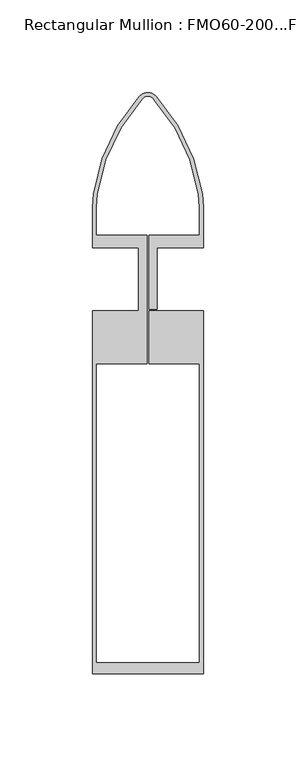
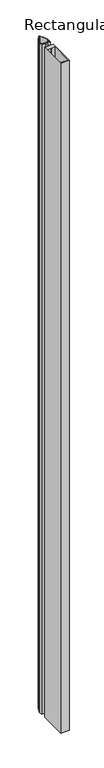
"""IFC4 building model written with IfcOpenShell, lengths in millimetres: member geometry, Rectangular Mullion : FMO60-200...FM60-80."""

from ifc_helpers import new_model, si_unit, frame, origin, place, context, project, spatial, polyline, circle_curve, source, transform, mapped, element, save
from ifc_brep_helpers import plane_surface, cylinder_surface, revolved_surface, advanced_brep


def rectangular_mullion_fmo60_200_fm60_80_63721d11(model_context):
    return source(origin(), model_context, "Body", "AdvancedBrep", [
        advanced_brep(
        [(-29.4612692, 46.2333488, 0.0), (-30.0, 38.9133183, 0.0), (-30.0, 17.0, 0.0), (-5.0, 17.0, 0.0), (-5.0, -17.0, 0.0), (-30.0, -17.0, 0.0), (-30.0, -213.009342, 0.0), (30.0, -213.009342, 0.0), (30.0, -17.0, 0.0), (0.5, -17.0, 0.0), (0.5, -45.5034642, 0.0), (28.0, -45.5034642, 0.0), (28.0, -207.009342, 0.0), (-28.0, -207.009342, 0.0), (-28.0, -45.5034642, 0.0), (-0.5, -45.5034642, 0.0), (-0.5, 23.8476589, 0.0), (-28.0, 23.8476589, 0.0), (-28.0, 38.9133183, 0.0), (-27.4828185, 45.9405476, 0.0), (-3.1488975, 97.4169663, 0.0), (0.0, 98.9502996, 0.0), (3.1488975, 97.4169663, 0.0), (27.4828185, 45.9405476, 0.0), (28.0, 38.9133183, 0.0), (28.0000412, 23.8476589, 0.0), (0.5, 23.8476589, 0.0), (0.5, -16.2, 0.0), (5.0, -16.2, 0.0), (5.0, 17.0, 0.0), (30.0, 17.0, 0.0), (30.0, 38.9133183, 0.0), (29.4612692, 46.2333488, 0.0), (4.7233463, 98.6502996, 0.0), (0.0, 100.9502996, 0.0), (-4.7233463, 98.6502996, 0.0), (-29.4612692, 46.2333488, -5000.0), (-4.7233463, 98.6502996, -5000.0), (0.0, 100.9502996, -5000.0), (4.7233463, 98.6502996, -5000.0), (29.4612692, 46.2333488, -5000.0), (30.0, 38.9133183, -5000.0), (30.0, 17.0, -5000.0), (5.0, 17.0, -5000.0), (5.0, -16.2, -5000.0), (0.5, -16.2, -5000.0), (0.5, 23.8476589, -5000.0), (28.0000412, 23.8476589, -5000.0), (28.0000412, 38.9133183, -5000.0), (27.4828185, 45.9405476, -5000.0), (3.1488975, 97.4169663, -5000.0), (0.0, 98.9502996, -5000.0), (-3.1488975, 97.4169663, -5000.0), (-27.4828185, 45.9405476, -5000.0), (-28.0, 38.9133183, -5000.0), (-28.0, 23.8476589, -5000.0), (-0.5, 23.8476589, -5000.0), (-0.5, -45.5034642, -5000.0), (-28.0, -45.5034642, -5000.0), (-28.0, -207.009342, -5000.0), (28.0, -207.009342, -5000.0), (28.0, -45.5034642, -5000.0), (0.5, -45.5034642, -5000.0), (0.5, -17.0, -5000.0), (30.0, -17.0, -5000.0), (30.0, -213.009342, -5000.0), (-30.0, -213.009342, -5000.0), (-30.0, -17.0, -5000.0), (-5.0, -17.0, -5000.0), (-5.0, 17.0, -5000.0), (-30.0, 17.0, -5000.0), (-30.0, 38.9133183, -5000.0)],
        [
            (0, 1, circle_curve(frame((20.0, 38.9133183, 0.0), z_axis=(0.0, 0.0, 1.0), x_axis=(-1.0, 0.0, 0.0)), 50.0)),
            (1, 2),
            (2, 3),
            (3, 4),
            (4, 5),
            (5, 6),
            (6, 7),
            (7, 8),
            (8, 9),
            (9, 10),
            (10, 11),
            (11, 12),
            (12, 13),
            (13, 14),
            (14, 15),
            (15, 16),
            (16, 17),
            (17, 18),
            (18, 19, circle_curve(frame((20.0, 38.9133183, 0.0), z_axis=(0.0, 0.0, -1.0), x_axis=(-0.9892253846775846, 0.14640060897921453, 0.0)), 48.0)),
            (19, 20, circle_curve(frame((69.5179996, 31.5761151, 0.0), z_axis=(0.0, 0.0, -1.0), x_axis=(-0.7410555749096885, 0.6714436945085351, 0.0)), 98.0586336)),
            (20, 21, circle_curve(frame((0.0, 94.9502996, 0.0), z_axis=(0.0, 0.0, -1.0), x_axis=(3.440159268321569e-11, 1.0, 0.0)), 4.0)),
            (21, 22, circle_curve(frame((0.0, 94.9502996, 0.0), z_axis=(0.0, 0.0, -1.0), x_axis=(0.7872243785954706, 0.61666666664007, 0.0)), 4.0)),
            (22, 23, circle_curve(frame((-69.5179996, 31.5761151, 0.0), z_axis=(0.0, 0.0, -1.0), x_axis=(0.9892124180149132, 0.14648819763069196, 0.0)), 98.0586336)),
            (23, 24, circle_curve(frame((-20.0, 38.9133183, 0.0), z_axis=(0.0, 0.0, -1.0), x_axis=(1.0, 0.0, 0.0)), 48.0)),
            (24, 25),
            (25, 26),
            (26, 27),
            (27, 28),
            (28, 29),
            (29, 30),
            (30, 31),
            (31, 32, circle_curve(frame((-20.0, 38.9133183, 0.0), z_axis=(0.0, 0.0, 1.0), x_axis=(0.9892253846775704, 0.1464006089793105, 0.0)), 50.0)),
            (32, 33, circle_curve(frame((-69.4612692, 31.5932879, 0.0), z_axis=(0.0, 0.0, 1.0), x_axis=(0.741846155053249, 0.6705701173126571, 0.0)), 100.0)),
            (33, 34, circle_curve(frame((0.0, 94.9502996, 0.0), z_axis=(0.0, 0.0, 1.0), x_axis=(2.2880808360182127e-11, 1.0, 0.0)), 6.0)),
            (34, 35, circle_curve(frame((0.0, 94.9502996, 0.0), z_axis=(0.0, 0.0, 1.0), x_axis=(-0.7872243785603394, 0.6166666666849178, 0.0)), 6.0)),
            (35, 0, circle_curve(frame((69.4612692, 31.5932879, 0.0), z_axis=(0.0, 0.0, 1.0), x_axis=(-0.9892253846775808, 0.14640060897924, 0.0)), 100.0)),
            (36, 37, circle_curve(frame((69.4612692, 31.5932879, -5000.0), z_axis=(0.0, 0.0, -1.0), x_axis=(-0.9892253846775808, 0.14640060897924, 0.0)), 100.0)),
            (37, 38, circle_curve(frame((0.0, 94.9502996, -5000.0), z_axis=(0.0, 0.0, -1.0), x_axis=(-0.7872243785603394, 0.6166666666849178, 0.0)), 6.0)),
            (38, 39, circle_curve(frame((0.0, 94.9502996, -5000.0), z_axis=(0.0, 0.0, -1.0), x_axis=(2.2880808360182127e-11, 1.0, 0.0)), 6.0)),
            (39, 40, circle_curve(frame((-69.4612692, 31.5932879, -5000.0), z_axis=(0.0, 0.0, -1.0), x_axis=(0.741846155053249, 0.6705701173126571, 0.0)), 100.0)),
            (40, 41, circle_curve(frame((-20.0, 38.9133183, -5000.0), z_axis=(0.0, 0.0, -1.0), x_axis=(0.9892253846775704, 0.1464006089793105, 0.0)), 50.0)),
            (41, 42),
            (42, 43),
            (43, 44),
            (44, 45),
            (45, 46),
            (46, 47),
            (47, 48),
            (48, 49, circle_curve(frame((-20.0, 38.9133183, -5000.0), z_axis=(0.0, 0.0, 1.0), x_axis=(1.0, 0.0, 0.0)), 48.0)),
            (49, 50, circle_curve(frame((-69.5179996, 31.5761151, -5000.0), z_axis=(0.0, 0.0, 1.0), x_axis=(0.9892124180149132, 0.14648819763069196, 0.0)), 98.0586336)),
            (50, 51, circle_curve(frame((0.0, 94.9502996, -5000.0), z_axis=(0.0, 0.0, 1.0), x_axis=(0.7872243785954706, 0.61666666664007, 0.0)), 4.0)),
            (51, 52, circle_curve(frame((0.0, 94.9502996, -5000.0), z_axis=(0.0, 0.0, 1.0), x_axis=(3.440159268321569e-11, 1.0, 0.0)), 4.0)),
            (52, 53, circle_curve(frame((69.5179996, 31.5761151, -5000.0), z_axis=(0.0, 0.0, 1.0), x_axis=(-0.7410555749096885, 0.6714436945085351, 0.0)), 98.0586336)),
            (53, 54, circle_curve(frame((20.0, 38.9133183, -5000.0), z_axis=(0.0, 0.0, 1.0), x_axis=(-0.9892253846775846, 0.14640060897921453, 0.0)), 48.0)),
            (54, 55),
            (55, 56),
            (56, 57),
            (57, 58),
            (58, 59),
            (59, 60),
            (60, 61),
            (61, 62),
            (62, 63),
            (63, 64),
            (64, 65),
            (65, 66),
            (66, 67),
            (67, 68),
            (68, 69),
            (69, 70),
            (70, 71),
            (71, 36, circle_curve(frame((20.0, 38.9133183, -5000.0), z_axis=(0.0, 0.0, -1.0), x_axis=(-1.0, 0.0, 0.0)), 50.0)),
            (0, 36),
            (71, 1),
            (70, 2),
            (69, 3),
            (68, 4),
            (67, 5),
            (66, 6),
            (65, 7),
            (64, 8),
            (63, 9),
            (62, 10),
            (61, 11),
            (60, 12),
            (59, 13),
            (58, 14),
            (57, 15),
            (56, 16),
            (55, 17),
            (54, 18),
            (53, 19),
            (52, 20),
            (51, 21),
            (50, 22),
            (49, 23),
            (48, 24),
            (47, 25),
            (46, 26),
            (45, 27),
            (44, 28),
            (43, 29),
            (42, 30),
            (41, 31),
            (40, 32),
            (39, 33),
            (38, 34),
            (37, 35),
        ],
        [
            plane_surface(frame((0.0, -215.111552, 0.0), z_axis=(0.0, 0.0, 1.0), x_axis=(-1.0, 0.0, 0.0))),
            plane_surface(frame((0.0, -215.111552, -5000.0), z_axis=(0.0, 0.0, -1.0), x_axis=(-1.0, 0.0, 0.0))),
            cylinder_surface(frame((20.0, 38.9133183, 0.0), z_axis=(0.0, 0.0, 1.0), x_axis=(-1.0, 0.0, 0.0)), 50.0),
            plane_surface(frame((-30.0, 38.9133183, 0.0), z_axis=(-1.0, 0.0, 0.0), x_axis=(0.0, 0.0, -1.0))),
            plane_surface(frame((-30.0, 17.0, 0.0), z_axis=(0.0, -1.0, 0.0), x_axis=(0.0, 0.0, -1.0))),
            plane_surface(frame((-5.0, 17.0, 0.0), z_axis=(-1.0, 0.0, 0.0), x_axis=(0.0, 0.0, -1.0))),
            plane_surface(frame((-5.0, -17.0, 0.0), z_axis=(0.0, 1.0, 0.0), x_axis=(0.0, 0.0, -1.0))),
            plane_surface(frame((-30.0, -17.0, 0.0), z_axis=(-1.0, 0.0, 0.0), x_axis=(0.0, 0.0, -1.0))),
            plane_surface(frame((-30.0, -213.009342, 0.0), z_axis=(0.0, -1.0, 0.0), x_axis=(0.0, 0.0, -1.0))),
            plane_surface(frame((30.0, -213.009342, 0.0), z_axis=(1.0, 0.0, 0.0), x_axis=(0.0, 0.0, -1.0))),
            plane_surface(frame((30.0, -17.0, 0.0), z_axis=(0.0, 1.0, 0.0), x_axis=(0.0, 0.0, -1.0))),
            plane_surface(frame((0.5, -17.0, 0.0), z_axis=(-1.0, 0.0, 0.0), x_axis=(0.0, 0.0, -1.0))),
            plane_surface(frame((0.5, -45.5034642, 0.0), z_axis=(0.0, -1.0, 0.0), x_axis=(0.0, 0.0, -1.0))),
            plane_surface(frame((28.0, -45.5034642, 0.0), z_axis=(-1.0, 0.0, 0.0), x_axis=(0.0, 0.0, -1.0))),
            plane_surface(frame((28.0, -207.009342, 0.0), z_axis=(0.0, 1.0, 0.0), x_axis=(0.0, 0.0, -1.0))),
            plane_surface(frame((-28.0, -207.009342, 0.0), z_axis=(1.0, 0.0, 0.0), x_axis=(0.0, 0.0, -1.0))),
            plane_surface(frame((-28.0, -45.5034642, 0.0), z_axis=(0.0, -1.0, 0.0), x_axis=(0.0, 0.0, -1.0))),
            plane_surface(frame((-0.5, -45.5034642, 0.0), z_axis=(1.0, 0.0, 0.0), x_axis=(0.0, 0.0, -1.0))),
            plane_surface(frame((-0.5, 23.8476589, 0.0), z_axis=(0.0, 1.0, 0.0), x_axis=(0.0, 0.0, -1.0))),
            plane_surface(frame((-28.0, 23.8476589, 0.0), z_axis=(1.0, 0.0, 0.0), x_axis=(0.0, 0.0, -1.0))),
            revolved_surface(polyline([(-27.48281846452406, 45.940547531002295, -5000.0), (-27.48281846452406, 45.940547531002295, 0.0)]), (20.0, 38.9133183, 0.0), (0.0, 0.0, -1.0)),
            revolved_surface(polyline([(-3.148897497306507, 97.41696632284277, -5000.0), (-3.148897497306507, 97.41696632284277, 0.0)]), (69.5179996, 31.5761151, 0.0), (0.0, 0.0, -1.0)),
            revolved_surface(polyline([(1.3760637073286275e-10, 98.9502996, -5000.0), (1.3760637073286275e-10, 98.9502996, 0.0)]), (0.0, 94.9502996, 0.0), (0.0, 0.0, -1.0)),
            revolved_surface(polyline([(3.1488975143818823, 97.41696626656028, -5000.0), (3.1488975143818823, 97.41696626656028, 0.0)]), (0.0, 94.9502996, 0.0), (0.0, 0.0, -1.0)),
            revolved_surface(polyline([(27.48281845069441, 45.94054759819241, -5000.0), (27.48281845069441, 45.94054759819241, 0.0)]), (-69.5179996, 31.5761151, 0.0), (0.0, 0.0, -1.0)),
            revolved_surface(polyline([(28.0, 38.9133183, -5000.0), (28.0, 38.9133183, 0.0)]), (-20.0, 38.9133183, 0.0), (0.0, 0.0, -1.0)),
            plane_surface(frame((28.0000412, 38.9133183, 0.0), z_axis=(-1.0, 0.0, 0.0), x_axis=(0.0, 0.0, -1.0))),
            plane_surface(frame((28.0000412, 23.8476589, 0.0), z_axis=(0.0, 1.0, 0.0), x_axis=(0.0, 0.0, -1.0))),
            plane_surface(frame((0.5, 23.8476589, 0.0), z_axis=(-1.0, 0.0, 0.0), x_axis=(0.0, 0.0, -1.0))),
            plane_surface(frame((0.5, -16.2, 0.0), z_axis=(0.0, -1.0, 0.0), x_axis=(0.0, 0.0, -1.0))),
            plane_surface(frame((5.0, -16.2, 0.0), z_axis=(1.0, 0.0, 0.0), x_axis=(0.0, 0.0, -1.0))),
            plane_surface(frame((5.0, 17.0, 0.0), z_axis=(0.0, -1.0, 0.0), x_axis=(0.0, 0.0, -1.0))),
            plane_surface(frame((30.0, 17.0, 0.0), z_axis=(1.0, 0.0, 0.0), x_axis=(0.0, 0.0, -1.0))),
            cylinder_surface(frame((-20.0, 38.9133183, 0.0), z_axis=(0.0, 0.0, 1.0), x_axis=(0.9892253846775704, 0.1464006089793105, 0.0)), 50.0),
            cylinder_surface(frame((-69.4612692, 31.5932879, 0.0), z_axis=(0.0, 0.0, 1.0), x_axis=(0.741846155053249, 0.6705701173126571, 0.0)), 100.0),
            cylinder_surface(frame((0.0, 94.9502996, 0.0), z_axis=(0.0, 0.0, 1.0), x_axis=(2.2880808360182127e-11, 1.0, 0.0)), 6.0),
            cylinder_surface(frame((0.0, 94.9502996, 0.0), z_axis=(0.0, 0.0, 1.0), x_axis=(-0.7872243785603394, 0.6166666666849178, 0.0)), 6.0),
            cylinder_surface(frame((69.4612692, 31.5932879, 0.0), z_axis=(0.0, 0.0, 1.0), x_axis=(-0.9892253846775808, 0.14640060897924, 0.0)), 100.0),
        ],
        [
            (0, [[1, 2, 3, 4, 5, 6, 7, 8, 9, 10, 11, 12, 13, 14, 15, 16, 17, 18, 19, 20, 21, 22, 23, 24, 25, 26, 27, 28, 29, 30, 31, 32, 33, 34, 35, 36]]),
            (1, [[37, 38, 39, 40, 41, 42, 43, 44, 45, 46, 47, 48, 49, 50, 51, 52, 53, 54, 55, 56, 57, 58, 59, 60, 61, 62, 63, 64, 65, 66, 67, 68, 69, 70, 71, 72]]),
            (2, [[-1, 73, -72, 74]]),
            (3, [[-2, -74, -71, 75]]),
            (4, [[-3, -75, -70, 76]]),
            (5, [[-4, -76, -69, 77]]),
            (6, [[-5, -77, -68, 78]]),
            (7, [[-6, -78, -67, 79]]),
            (8, [[-7, -79, -66, 80]]),
            (9, [[-8, -80, -65, 81]]),
            (10, [[-9, -81, -64, 82]]),
            (11, [[-10, -82, -63, 83]]),
            (12, [[-11, -83, -62, 84]]),
            (13, [[-12, -84, -61, 85]]),
            (14, [[-13, -85, -60, 86]]),
            (15, [[-14, -86, -59, 87]]),
            (16, [[-15, -87, -58, 88]]),
            (17, [[-16, -88, -57, 89]]),
            (18, [[-17, -89, -56, 90]]),
            (19, [[-18, -90, -55, 91]]),
            (20, [[-19, -91, -54, 92]]),
            (21, [[-20, -92, -53, 93]]),
            (22, [[-21, -93, -52, 94]]),
            (23, [[-22, -94, -51, 95]]),
            (24, [[-23, -95, -50, 96]]),
            (25, [[-24, -96, -49, 97]]),
            (26, [[-25, -97, -48, 98]]),
            (27, [[-26, -98, -47, 99]]),
            (28, [[-27, -99, -46, 100]]),
            (29, [[-28, -100, -45, 101]]),
            (30, [[-29, -101, -44, 102]]),
            (31, [[-30, -102, -43, 103]]),
            (32, [[-31, -103, -42, 104]]),
            (33, [[-32, -104, -41, 105]]),
            (34, [[-33, -105, -40, 106]]),
            (35, [[-34, -106, -39, 107]]),
            (36, [[-35, -107, -38, 108]]),
            (37, [[-36, -108, -37, -73]]),
        ],
    ),
    ])


if __name__ == "__main__":
    model = new_model("IFC4")
    model_context = context("Model", 3, world=origin())
    ifc_project = project(units=[si_unit("LENGTHUNIT", "METRE", prefix="MILLI")], contexts=[model_context])
    site = spatial("IfcSite", under=ifc_project)
    building = spatial("IfcBuilding", under=site)
    placement = place(None, origin())
    rectangular_mullion_fmo60_200_fm60_80_shape = rectangular_mullion_fmo60_200_fm60_80_63721d11(model_context)
    element("IfcMember", 1, ObjectType="Rectangular Mullion : FMO60-200...FM60-80", at=placement, inside=building, context=model_context, shape_type="MappedRepresentation", body=[
        mapped(rectangular_mullion_fmo60_200_fm60_80_shape, transform((0.0, 0.0, 0.0), x_axis=(1.0, 0.0, 0.0), y_axis=(0.0, 1.0, 0.0), z_axis=(0.0, 0.0, 1.0))),
    ])
    save(model, "model.ifc")
